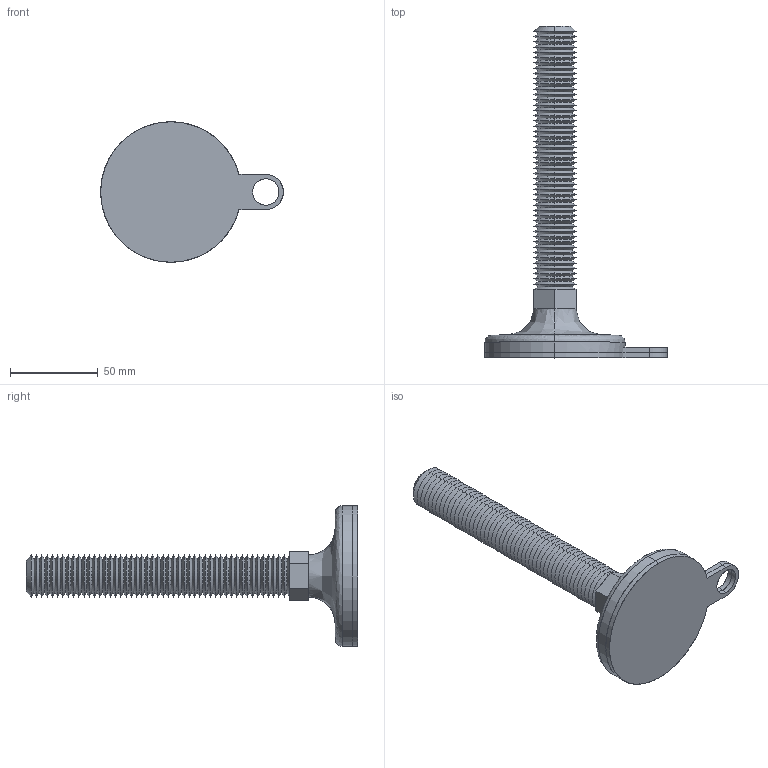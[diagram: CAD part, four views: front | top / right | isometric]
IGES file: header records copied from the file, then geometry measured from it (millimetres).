
Start section: SolidWorks IGES file using analytic representation for surfaces
Global section: file name: C:\Users\liam_\OneDrive\Documents\WORK\Work for WixRoyd\Job Files\J-00026 - Matt Davis CAD - 20191124\04. CAD Drawings\Wixroyd20191124\34704_v2\34704_v2_20191128_IGES\34704.W2402.igs; native system: SolidWorks 2017; preprocessor: SolidWorks 2017; author: liam_; date: 191128.202928; units: millimetre
Bounding box: 104 x 189 x 80 mm (x, y, z)
Surface area: 46145.6 mm2 (no closed solid volume)
Topology: 0 solids, 0 shells, 241 faces, 1596 edges, 1596 vertices
Faces by surface type: revolution 209, bspline 32
